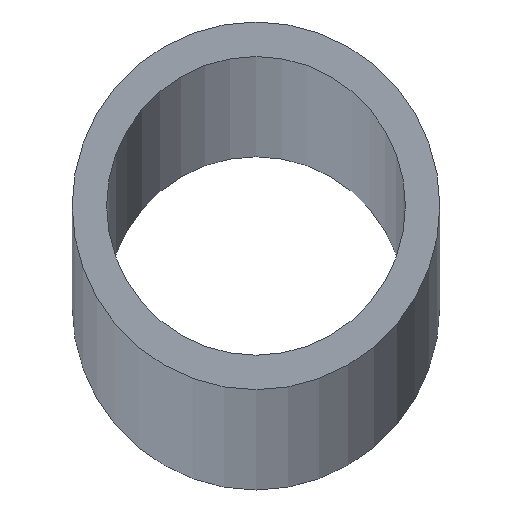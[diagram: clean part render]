
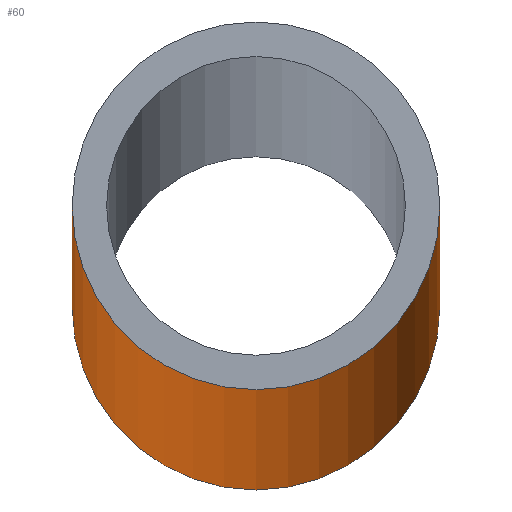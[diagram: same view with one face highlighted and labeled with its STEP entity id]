
A CAD part, top view. The second image highlights one B-rep face of the part: STEP entity #60.
In plain terms, the highlighted cylindrical face has radius 16 mm (diameter 32 mm), a full revolution.
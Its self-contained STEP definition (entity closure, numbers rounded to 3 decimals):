
#17=FACE_BOUND('',#27,.T.);
#21=FACE_OUTER_BOUND('',#26,.T.);
#26=EDGE_LOOP('',(#46));
#27=EDGE_LOOP('',(#47));
#34=CIRCLE('',#87,16.);
#35=CIRCLE('',#88,16.);
#38=VERTEX_POINT('',#116);
#39=VERTEX_POINT('',#118);
#42=EDGE_CURVE('',#38,#38,#34,.T.);
#43=EDGE_CURVE('',#39,#39,#35,.T.);
#46=ORIENTED_EDGE('',*,*,#42,.F.);
#47=ORIENTED_EDGE('',*,*,#43,.F.);
#53=CYLINDRICAL_SURFACE('',#86,16.);
#60=ADVANCED_FACE('',(#21,#17),#53,.T.);
#86=AXIS2_PLACEMENT_3D('',#115,#99,#100);
#87=AXIS2_PLACEMENT_3D('',#117,#101,#102);
#88=AXIS2_PLACEMENT_3D('',#119,#103,#104);
#99=DIRECTION('center_axis',(0.,0.,1.));
#100=DIRECTION('ref_axis',(-1.,0.,0.));
#101=DIRECTION('center_axis',(0.,0.,1.));
#102=DIRECTION('ref_axis',(-1.,0.,0.));
#103=DIRECTION('center_axis',(0.,0.,-1.));
#104=DIRECTION('ref_axis',(-1.,0.,0.));
#115=CARTESIAN_POINT('Origin',(0.,0.,0.));
#116=CARTESIAN_POINT('',(16.,0.,5000.));
#117=CARTESIAN_POINT('Origin',(0.,0.,5000.));
#118=CARTESIAN_POINT('',(16.,0.,0.));
#119=CARTESIAN_POINT('Origin',(0.,0.,0.));
